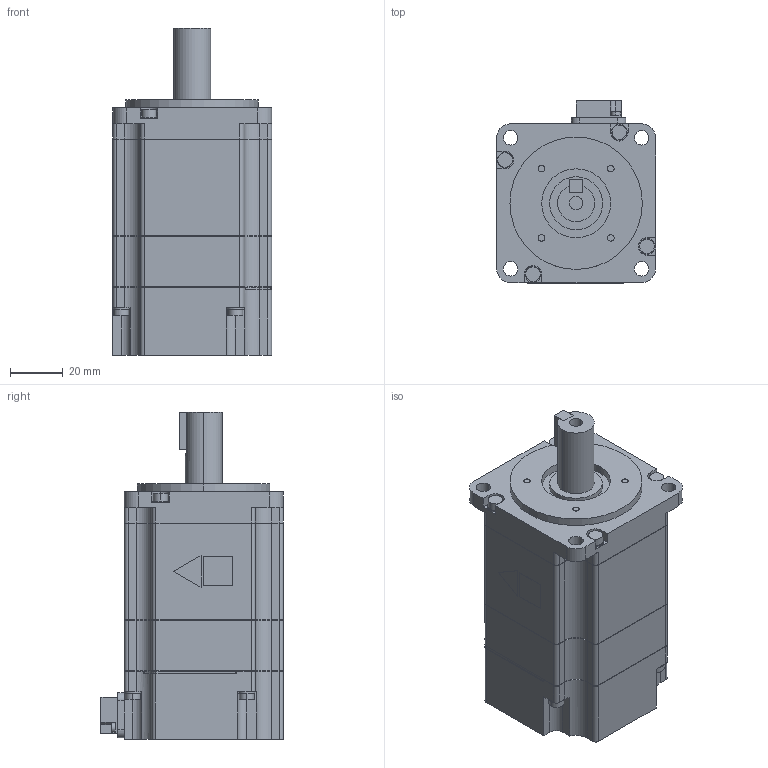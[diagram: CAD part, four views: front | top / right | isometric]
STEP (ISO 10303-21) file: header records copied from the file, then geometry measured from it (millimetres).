
FILE_DESCRIPTION (( 'STEP AP203' ), '1' );
FILE_NAME ('sgm7j_04a6a61.STEP', '2016-11-12T04:56:41', ( '匠エンジニアリング山之内' ), ( 'TAKUMI-Engniaring' ), 'SwSTEP 2.0', 'SolidWorks 2006303', '' );
FILE_SCHEMA (( 'CONFIG_CONTROL_DESIGN' ));
Length unit declared in the file: millimetre
Products named in the file (3): sgm7j_04a6a61; sgm7j_04a6a61_base; sgm7j_04a6a61_key
Assembly tree (2 placements, depth 2):
  sgm7j_04a6a61
    sgm7j_04a6a61_key
    sgm7j_04a6a61_base
Bounding box: 60.1 x 68.8 x 123.6 mm (x, y, z)
Volume: 306437.4 mm3; surface area: 34331.6 mm2
Topology: 2 solids, 2 shells, 429 faces, 1123 edges, 746 vertices
Faces by surface type: plane 240, cylinder 189
Entity records: 13639 total; most frequent: DIRECTION 2374, CARTESIAN_POINT 2349, ORIENTED_EDGE 2246, EDGE_CURVE 1123, AXIS2_PLACEMENT_3D 821, VERTEX_POINT 746, VECTOR 732, LINE 732
